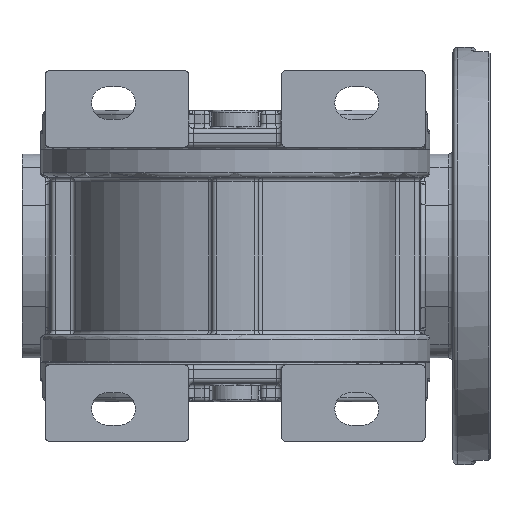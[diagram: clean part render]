
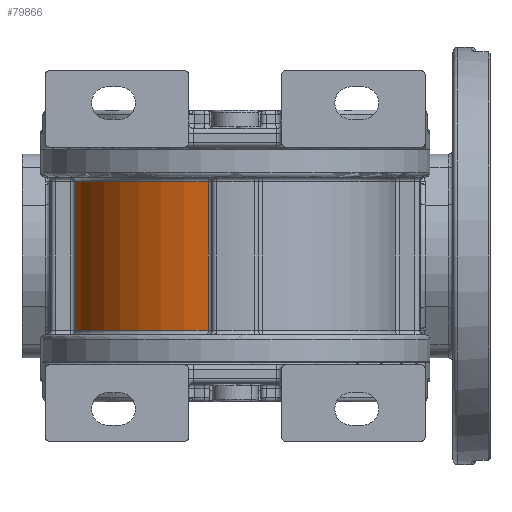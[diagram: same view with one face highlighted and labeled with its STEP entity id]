
A CAD part, front view. The second image highlights one B-rep face of the part: STEP entity #79866.
In plain terms, the highlighted cylindrical face has radius 35 mm (diameter 70 mm), a partial arc.
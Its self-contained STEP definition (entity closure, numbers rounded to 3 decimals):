
#26619 = DIRECTION ( 'NONE',  ( 1., 0., 0. ) ) ;
#26620 = DIRECTION ( 'NONE',  ( 0., 0., 1. ) ) ;
#26621 = CARTESIAN_POINT ( 'NONE',  ( 0., -30., -17. ) ) ;
#26622 = AXIS2_PLACEMENT_3D ( 'NONE', #26621, #26620, #26619 ) ;
#26623 = CYLINDRICAL_SURFACE ( 'NONE', #26622, 35. ) ;
#26624 = FACE_OUTER_BOUND ( 'NONE', #79867, .T. ) ;
#26678 = CARTESIAN_POINT ( 'NONE',  ( -5.833, -64.51, -16. ) ) ;
#26679 = CARTESIAN_POINT ( 'NONE',  ( -34.51, -35.833, -16. ) ) ;
#26680 = CARTESIAN_POINT ( 'NONE',  ( -34.51, -35.833, 16. ) ) ;
#26681 = DIRECTION ( 'NONE',  ( 0., 0., -1. ) ) ;
#26682 = VECTOR ( 'NONE', #26681, 1000. ) ;
#26683 = CARTESIAN_POINT ( 'NONE',  ( -34.51, -35.833, -17. ) ) ;
#26684 = LINE ( 'NONE', #26683, #26682 ) ;
#26757 = DIRECTION ( 'NONE',  ( 1., 0., 0. ) ) ;
#26758 = DIRECTION ( 'NONE',  ( 0., 0., -1. ) ) ;
#26759 = CARTESIAN_POINT ( 'NONE',  ( 0., -30., 16. ) ) ;
#26760 = AXIS2_PLACEMENT_3D ( 'NONE', #26759, #26758, #26757 ) ;
#26761 = CIRCLE ( 'NONE', #26760, 35. ) ;
#26762 = CARTESIAN_POINT ( 'NONE',  ( -5.833, -64.51, 16. ) ) ;
#26763 = DIRECTION ( 'NONE',  ( 0., 0., 1. ) ) ;
#26764 = VECTOR ( 'NONE', #26763, 1000. ) ;
#26765 = CARTESIAN_POINT ( 'NONE',  ( -5.833, -64.51, -17. ) ) ;
#26766 = LINE ( 'NONE', #26765, #26764 ) ;
#26767 = DIRECTION ( 'NONE',  ( 1., 0., 0. ) ) ;
#26768 = DIRECTION ( 'NONE',  ( 0., 0., 1. ) ) ;
#26769 = CARTESIAN_POINT ( 'NONE',  ( 0., -30., -16. ) ) ;
#26770 = AXIS2_PLACEMENT_3D ( 'NONE', #26769, #26768, #26767 ) ;
#26771 = CIRCLE ( 'NONE', #26770, 35. ) ;
#79866 = ADVANCED_FACE ( 'NONE', ( #26624 ), #26623, .T. ) ;
#79867 = EDGE_LOOP ( 'NONE', ( #79868, #79928, #79930, #79933 ) ) ;
#79868 = ORIENTED_EDGE ( 'NONE', *, *, #79869, .T. ) ;
#79869 = EDGE_CURVE ( 'NONE', #79870, #79871, #26684, .T. ) ;
#79870 = VERTEX_POINT ( 'NONE', #26680 ) ;
#79871 = VERTEX_POINT ( 'NONE', #26679 ) ;
#79872 = VERTEX_POINT ( 'NONE', #26678 ) ;
#79928 = ORIENTED_EDGE ( 'NONE', *, *, #79929, .T. ) ;
#79929 = EDGE_CURVE ( 'NONE', #79871, #79872, #26771, .T. ) ;
#79930 = ORIENTED_EDGE ( 'NONE', *, *, #79931, .T. ) ;
#79931 = EDGE_CURVE ( 'NONE', #79872, #79932, #26766, .T. ) ;
#79932 = VERTEX_POINT ( 'NONE', #26762 ) ;
#79933 = ORIENTED_EDGE ( 'NONE', *, *, #79934, .T. ) ;
#79934 = EDGE_CURVE ( 'NONE', #79932, #79870, #26761, .T. ) ;
